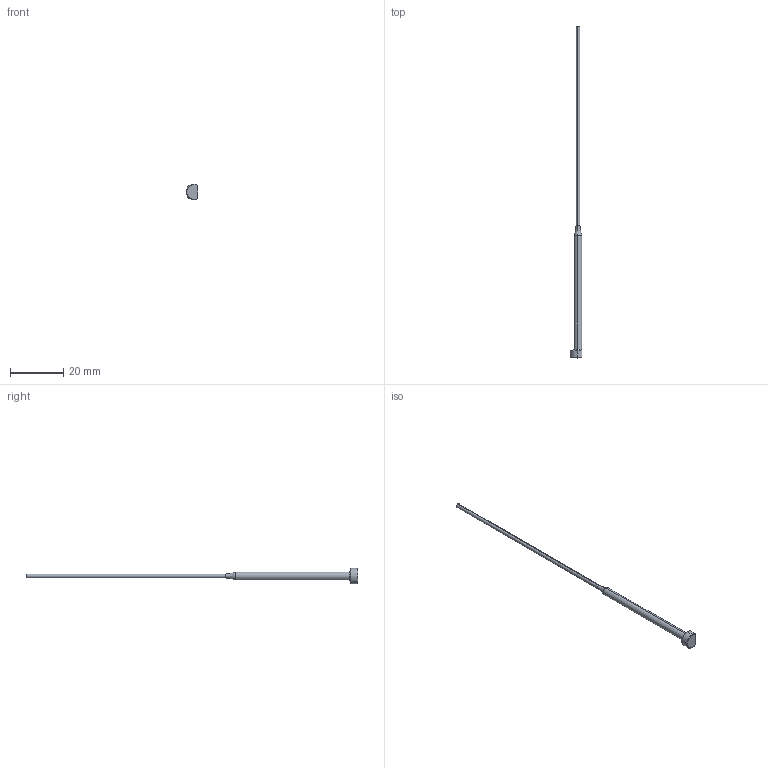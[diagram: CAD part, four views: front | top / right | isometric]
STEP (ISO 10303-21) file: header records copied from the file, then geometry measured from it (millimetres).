
FILE_DESCRIPTION (( 'STEP AP203' ), '1' );
FILE_NAME ('EPD015X3L125-50-K.step', '2022-04-05T12:58:21', ( 'Microsoft Corporation' ), ( 'MS' ), 'SwSTEP 2.0', 'SolidWorks 2019', '' );
FILE_SCHEMA (( 'CONFIG_CONTROL_DESIGN' ));
Length unit declared in the file: millimetre
Products named in the file (1): EPD015X3L125-50-K
Bounding box: 4.5 x 125 x 6 mm (x, y, z)
Volume: 518.3 mm3; surface area: 874.5 mm2
Topology: 1 solids, 1 shells, 22 faces, 49 edges, 29 vertices
Faces by surface type: cylinder 7, cone 6, torus 5, plane 4
Entity records: 700 total; most frequent: CARTESIAN_POINT 123, DIRECTION 117, ORIENTED_EDGE 98, AXIS2_PLACEMENT_3D 51, EDGE_CURVE 49, VERTEX_POINT 29, CIRCLE 28, FACE_OUTER_BOUND 22
